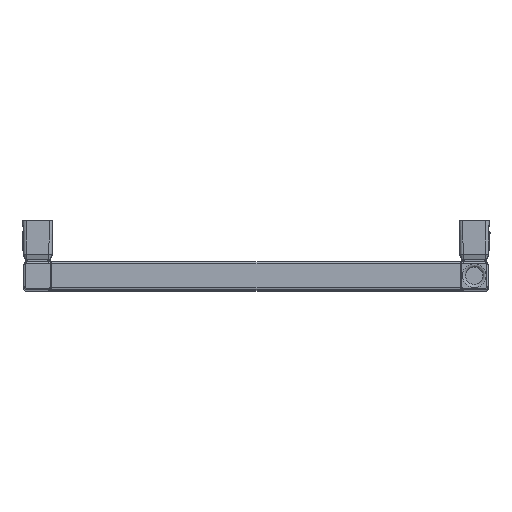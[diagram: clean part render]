
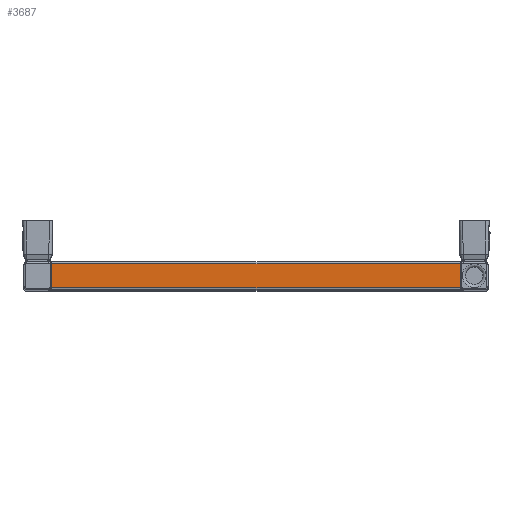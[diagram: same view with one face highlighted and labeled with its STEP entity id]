
A CAD part, top view. The second image highlights one B-rep face of the part: STEP entity #3687.
In plain terms, the highlighted planar face has unit normal (0, 0, 1).
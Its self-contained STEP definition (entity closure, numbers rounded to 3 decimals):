
#3612=CARTESIAN_POINT('',(0.0,-13.,1035.0));
#3613=DIRECTION('',(0.0,0.0,1.0));
#3614=DIRECTION('',(1.0,0.0,0.0));
#3615=AXIS2_PLACEMENT_3D('',#3612,#3613,#3614);
#3616=PLANE('',#3615);
#3617=CARTESIAN_POINT('',(220.172,13.,1035.0));
#3618=VERTEX_POINT('',#3617);
#3619=CARTESIAN_POINT('',(220.,12.,1035.0));
#3620=VERTEX_POINT('',#3619);
#3621=CARTESIAN_POINT('',(223.,12.,1035.0));
#3622=DIRECTION('',(0.0,0.0,1.0));
#3623=DIRECTION('',(0.0,1.0,0.0));
#3624=AXIS2_PLACEMENT_3D('',#3621,#3622,#3623);
#3625=CIRCLE('',#3624,3.);
#3626=EDGE_CURVE('',#3618,#3620,#3625,.T.);
#3627=ORIENTED_EDGE('',*,*,#3626,.F.);
#3628=CARTESIAN_POINT('',(-220.172,13.,1035.0));
#3629=VERTEX_POINT('',#3628);
#3630=CARTESIAN_POINT('',(220.172,13.,1035.0));
#3631=DIRECTION('',(-1.0,0.0,0.0));
#3632=VECTOR('',#3631,440.343);
#3633=LINE('',#3630,#3632);
#3634=EDGE_CURVE('',#3618,#3629,#3633,.T.);
#3635=ORIENTED_EDGE('',*,*,#3634,.T.);
#3636=CARTESIAN_POINT('',(-220.,12.,1035.0));
#3637=VERTEX_POINT('',#3636);
#3638=CARTESIAN_POINT('',(-223.,12.,1035.0));
#3639=DIRECTION('',(0.0,0.0,1.0));
#3640=DIRECTION('',(1.0,0.0,0.0));
#3641=AXIS2_PLACEMENT_3D('',#3638,#3639,#3640);
#3642=CIRCLE('',#3641,3.);
#3643=EDGE_CURVE('',#3637,#3629,#3642,.T.);
#3644=ORIENTED_EDGE('',*,*,#3643,.F.);
#3645=CARTESIAN_POINT('',(-220.,-12.,1035.0));
#3646=VERTEX_POINT('',#3645);
#3647=CARTESIAN_POINT('',(-220.,-12.,1035.0));
#3648=DIRECTION('',(0.0,1.0,0.0));
#3649=VECTOR('',#3648,24.);
#3650=LINE('',#3647,#3649);
#3651=EDGE_CURVE('',#3646,#3637,#3650,.T.);
#3652=ORIENTED_EDGE('',*,*,#3651,.F.);
#3653=CARTESIAN_POINT('',(-220.172,-13.,1035.0));
#3654=VERTEX_POINT('',#3653);
#3655=CARTESIAN_POINT('',(-223.,-12.,1035.0));
#3656=DIRECTION('',(0.0,0.0,1.0));
#3657=DIRECTION('',(0.0,-1.0,0.0));
#3658=AXIS2_PLACEMENT_3D('',#3655,#3656,#3657);
#3659=CIRCLE('',#3658,3.0);
#3660=EDGE_CURVE('',#3654,#3646,#3659,.T.);
#3661=ORIENTED_EDGE('',*,*,#3660,.F.);
#3662=CARTESIAN_POINT('',(220.172,-13.,1035.0));
#3663=VERTEX_POINT('',#3662);
#3664=CARTESIAN_POINT('',(220.172,-13.,1035.0));
#3665=DIRECTION('',(-1.0,0.0,0.0));
#3666=VECTOR('',#3665,440.343);
#3667=LINE('',#3664,#3666);
#3668=EDGE_CURVE('',#3663,#3654,#3667,.T.);
#3669=ORIENTED_EDGE('',*,*,#3668,.F.);
#3670=CARTESIAN_POINT('',(220.,-12.,1035.0));
#3671=VERTEX_POINT('',#3670);
#3672=CARTESIAN_POINT('',(223.,-12.,1035.0));
#3673=DIRECTION('',(0.0,0.0,1.0));
#3674=DIRECTION('',(-1.0,0.0,0.0));
#3675=AXIS2_PLACEMENT_3D('',#3672,#3673,#3674);
#3676=CIRCLE('',#3675,3.0);
#3677=EDGE_CURVE('',#3671,#3663,#3676,.T.);
#3678=ORIENTED_EDGE('',*,*,#3677,.F.);
#3679=CARTESIAN_POINT('',(220.,12.,1035.0));
#3680=DIRECTION('',(0.0,-1.0,0.0));
#3681=VECTOR('',#3680,24.);
#3682=LINE('',#3679,#3681);
#3683=EDGE_CURVE('',#3620,#3671,#3682,.T.);
#3684=ORIENTED_EDGE('',*,*,#3683,.F.);
#3685=EDGE_LOOP('',(#3627,#3635,#3644,#3652,#3661,#3669,#3678,#3684));
#3686=FACE_OUTER_BOUND('',#3685,.T.);
#3687=ADVANCED_FACE('',(#3686),#3616,.T.);
